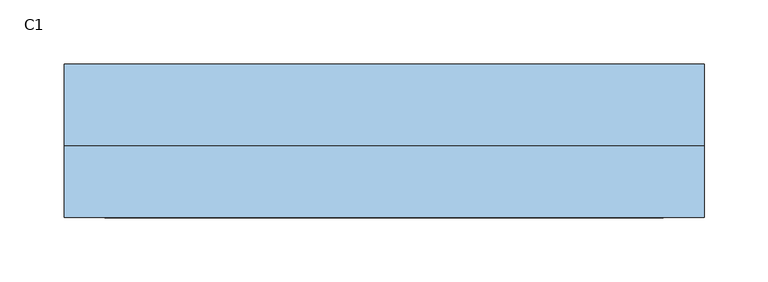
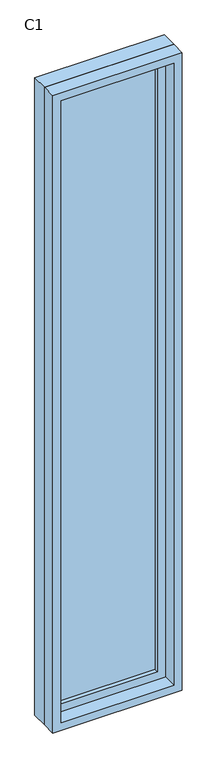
"""IFC4 building model written with IfcOpenShell, lengths in millimetres: window geometry, 固定窗 : C1."""

from ifc_helpers import new_model, si_unit, frame, origin, place, context, project, spatial, polyline, outline, extrude, source, transform, mapped, element, save


def c1_883b8060(model_context):
    return source(origin(), model_context, "Body", "SweptSolid", [
        extrude(outline(polyline([(148.4, 11.425), (-224.6, 11.425), (-224.6, 24.125), (148.4, 24.125), (148.4, 11.425)])), frame((0.0, 0.0, 63.5), z_axis=(0.0, 0.0, 1.0), x_axis=(1.0, 0.0, 0.0)), (0.0, 0.0, 1.0), 2473.0),
        extrude(outline(polyline([(2580.95, -269.05), (19.05, -269.05), (19.05, 192.85), (2580.95, 192.85), (2580.95, -269.05)]), holes=[polyline([(2536.5, -224.6), (2536.5, 148.4), (63.5, 148.4), (63.5, -224.6), (2536.5, -224.6)])]), frame((0.0, -4.45, 0.0), z_axis=(0.0, 1.0, 0.0), x_axis=(0.0, 0.0, 1.0)), (0.0, 0.0, 1.0), 44.45),
        extrude(outline(polyline([(2600.0, -288.1), (0.0, -288.1), (0.0, 211.9), (2600.0, 211.9), (2600.0, -288.1)]), holes=[polyline([(2568.25, -256.35), (2568.25, 180.15), (31.75, 180.15), (31.75, -256.35), (2568.25, -256.35)])]), frame((0.0, -60.0, 0.0), z_axis=(0.0, 1.0, 0.0), x_axis=(0.0, 0.0, 1.0)), (0.0, 0.0, 1.0), 55.55),
        extrude(outline(polyline([(2600.0, 211.9), (2600.0, -288.1), (0.0, -288.1), (0.0, 211.9), (2600.0, 211.9)]), holes=[polyline([(2580.95, 192.85), (19.05, 192.85), (19.05, -269.05), (2580.95, -269.05), (2580.95, 192.85)])]), frame((0.0, -4.45, 0.0), z_axis=(0.0, 1.0, 0.0), x_axis=(0.0, 0.0, 1.0)), (0.0, 0.0, 1.0), 64.45),
    ])


if __name__ == "__main__":
    model = new_model("IFC4")
    model_context = context("Model", 3, world=origin())
    ifc_project = project(units=[si_unit("LENGTHUNIT", "METRE", prefix="MILLI")], contexts=[model_context])
    site = spatial("IfcSite", under=ifc_project)
    building = spatial("IfcBuilding", under=site)
    placement = place(None, origin())
    c1_shape = c1_883b8060(model_context)
    element("IfcWindow", 1, ObjectType="固定窗 : C1", at=placement, inside=building, context=model_context, shape_type="MappedRepresentation", body=[
        mapped(c1_shape, transform((0.0, 0.0, 0.0), x_axis=(1.0, 0.0, 0.0), y_axis=(0.0, 1.0, 0.0), z_axis=(0.0, 0.0, 1.0))),
    ])
    save(model, "model.ifc")
